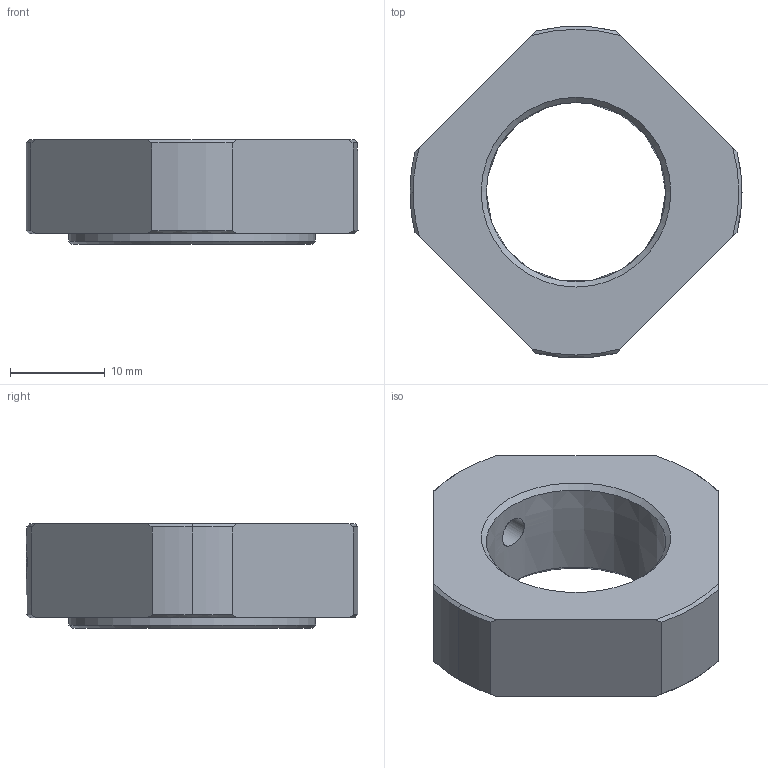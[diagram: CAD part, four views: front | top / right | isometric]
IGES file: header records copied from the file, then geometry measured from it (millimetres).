
Start section: Data from Parasolid IGES Translator 26.0.171, Copyright(c) 2006 Siemens PLM Software. All Rights Reserved.
Global section: file name: RN 20.igs; native system: By Siemens PLM Incorporated; preprocessor: XPlus GENERIC/IGES 26.0.171; author: Noname; organization: Noname; date: 20250611.074200; units: millimetre
Bounding box: 35 x 34.94 x 11 mm (x, y, z)
Surface area: 2890.3 mm2 (no closed solid volume)
Topology: 0 solids, 0 shells, 39 faces, 200 edges, 196 vertices
Faces by surface type: revolution 23, extrusion 16
